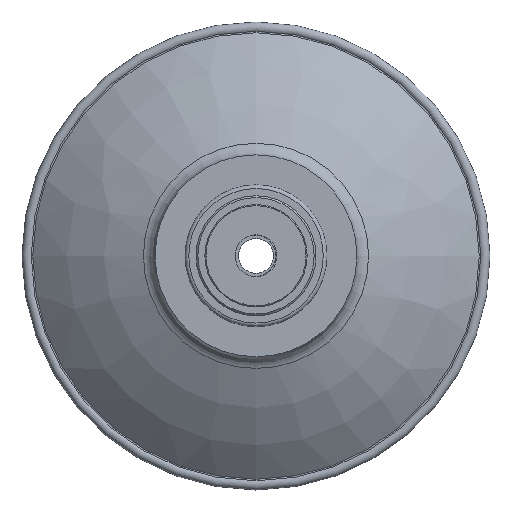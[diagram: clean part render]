
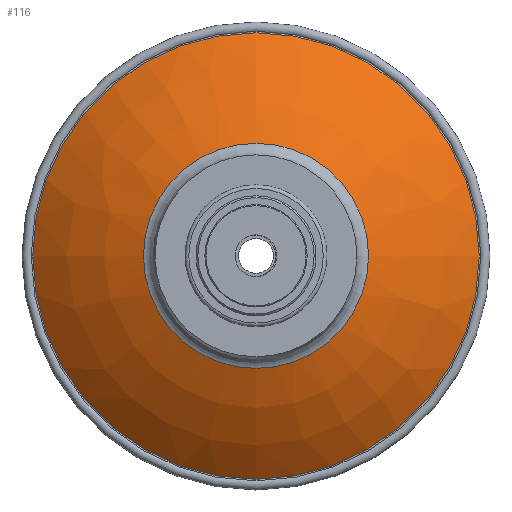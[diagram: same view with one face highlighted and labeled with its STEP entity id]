
A CAD part, top view. The second image highlights one B-rep face of the part: STEP entity #116.
In plain terms, the highlighted free-form (B-spline) face has degree [3, 3] with [4, 7] control points.
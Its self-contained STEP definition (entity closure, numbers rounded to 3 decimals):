
#116 = ADVANCED_FACE( '', ( #264, #265 ), #266, .T. );
#264 = FACE_OUTER_BOUND( '', #480, .T. );
#265 = FACE_OUTER_BOUND( '', #481, .T. );
#266 = ( BOUNDED_SURFACE(  )B_SPLINE_SURFACE( 3, 3, ( ( #484, #485, #486, #487, #488, #489, #490 ), ( #491, #492, #493, #494, #495, #496, #497 ), ( #498, #499, #500, #501, #502, #503, #504 ), ( #505, #506, #507, #508, #509, #510, #511 ) ), .UNSPECIFIED., .F., .T., .F. )B_SPLINE_SURFACE_WITH_KNOTS( ( 4, 4 ), ( 4, 3, 4 ), ( 0., 6.283 ), ( 0.832, 1.015, 1.198 ), .UNSPECIFIED. )GEOMETRIC_REPRESENTATION_ITEM(  )RATIONAL_B_SPLINE_SURFACE( ( ( 1., 0.333, 0.333, 1., 0.333, 0.333, 1. ), ( 0.989, 0.33, 0.33, 0.989, 0.33, 0.33, 0.989 ), ( 0.989, 0.33, 0.33, 0.989, 0.33, 0.33, 0.989 ), ( 1., 0.333, 0.333, 1., 0.333, 0.333, 1. ) ) )REPRESENTATION_ITEM( '' )SURFACE(  ) );
#480 = EDGE_LOOP( '', ( #813 ) );
#481 = EDGE_LOOP( '', ( #814 ) );
#484 = CARTESIAN_POINT( '', ( 31.126, 0., 2.168 ) );
#485 = CARTESIAN_POINT( '', ( 31.126, 61.579, 2.168 ) );
#486 = CARTESIAN_POINT( '', ( -30.453, 61.579, 2.168 ) );
#487 = CARTESIAN_POINT( '', ( -30.453, 0., 2.168 ) );
#488 = CARTESIAN_POINT( '', ( -30.453, -61.579, 2.168 ) );
#489 = CARTESIAN_POINT( '', ( 31.126, -61.579, 2.168 ) );
#490 = CARTESIAN_POINT( '', ( 31.126, 0., 2.168 ) );
#491 = CARTESIAN_POINT( '', ( 42.309, 0., -2.201 ) );
#492 = CARTESIAN_POINT( '', ( 42.309, 83.946, -2.201 ) );
#493 = CARTESIAN_POINT( '', ( -41.636, 83.946, -2.201 ) );
#494 = CARTESIAN_POINT( '', ( -41.636, 0., -2.201 ) );
#495 = CARTESIAN_POINT( '', ( -41.636, -83.946, -2.201 ) );
#496 = CARTESIAN_POINT( '', ( 42.309, -83.946, -2.201 ) );
#497 = CARTESIAN_POINT( '', ( 42.309, 0., -2.201 ) );
#498 = CARTESIAN_POINT( '', ( 52.51, 0., -8.535 ) );
#499 = CARTESIAN_POINT( '', ( 52.51, 104.346, -8.535 ) );
#500 = CARTESIAN_POINT( '', ( -51.837, 104.346, -8.535 ) );
#501 = CARTESIAN_POINT( '', ( -51.837, 0., -8.535 ) );
#502 = CARTESIAN_POINT( '', ( -51.837, -104.346, -8.535 ) );
#503 = CARTESIAN_POINT( '', ( 52.51, -104.346, -8.535 ) );
#504 = CARTESIAN_POINT( '', ( 52.51, 0., -8.535 ) );
#505 = CARTESIAN_POINT( '', ( 61.386, 0., -16.621 ) );
#506 = CARTESIAN_POINT( '', ( 61.386, 122.099, -16.621 ) );
#507 = CARTESIAN_POINT( '', ( -60.713, 122.099, -16.621 ) );
#508 = CARTESIAN_POINT( '', ( -60.713, 0., -16.621 ) );
#509 = CARTESIAN_POINT( '', ( -60.713, -122.099, -16.621 ) );
#510 = CARTESIAN_POINT( '', ( 61.386, -122.099, -16.621 ) );
#511 = CARTESIAN_POINT( '', ( 61.386, 0., -16.621 ) );
#813 = ORIENTED_EDGE( '', *, *, #1065, .T. );
#814 = ORIENTED_EDGE( '', *, *, #1066, .F. );
#1065 = EDGE_CURVE( '', #1186, #1186, #1187, .T. );
#1066 = EDGE_CURVE( '', #1188, #1188, #1189, .T. );
#1186 = VERTEX_POINT( '', #1336 );
#1187 = CIRCLE( '', #1337, 61.049 );
#1188 = VERTEX_POINT( '', #1338 );
#1189 = CIRCLE( '', #1339, 30.789 );
#1336 = CARTESIAN_POINT( '', ( 61.386, 0., -16.621 ) );
#1337 = AXIS2_PLACEMENT_3D( '', #1494, #1495, #1496 );
#1338 = CARTESIAN_POINT( '', ( 31.126, 0., 2.168 ) );
#1339 = AXIS2_PLACEMENT_3D( '', #1497, #1498, #1499 );
#1494 = CARTESIAN_POINT( '', ( 0.337, 0., -16.621 ) );
#1495 = DIRECTION( '', ( 0., 0., 1. ) );
#1496 = DIRECTION( '', ( 1., 0., 0. ) );
#1497 = CARTESIAN_POINT( '', ( 0.337, 0., 2.168 ) );
#1498 = DIRECTION( '', ( 0., 0., 1. ) );
#1499 = DIRECTION( '', ( 1., 0., 0. ) );
